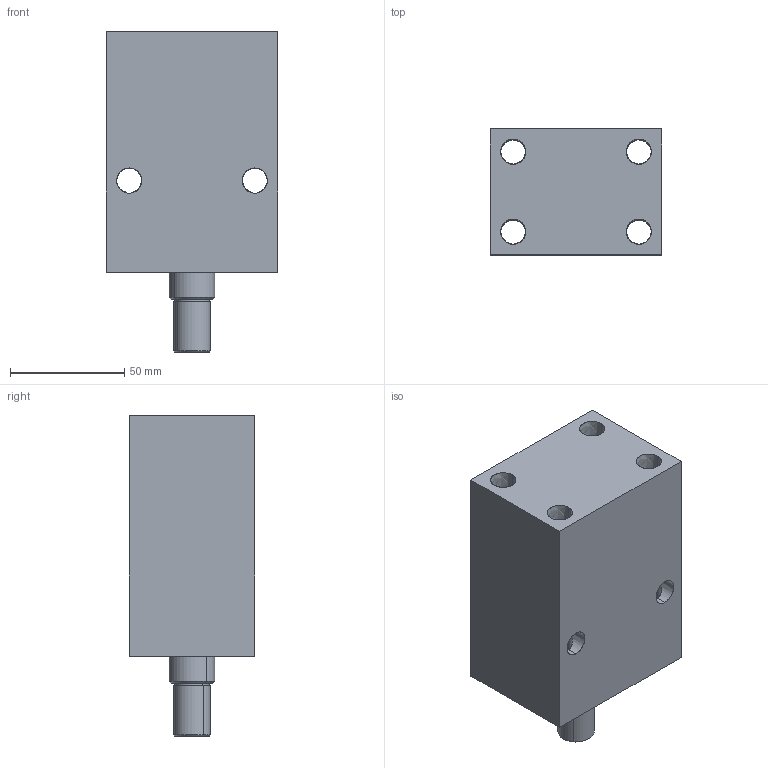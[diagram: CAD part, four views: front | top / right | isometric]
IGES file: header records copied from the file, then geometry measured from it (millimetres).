
Start section: SolidWorks IGES file using analytic representation for surfaces
Global section: file name: D:\karuppas\Clasp\3D model\Block cylinder B01C-Male thread - Copy\B01C-250M\Block cylinder_B01C-250M.IGS; native system: SolidWorks 2017; preprocessor: SolidWorks 2017; author: pc; date: 220709.234011; units: millimetre
Bounding box: 75 x 55 x 140 mm (x, y, z)
Surface area: 61758.4 mm2 (no closed solid volume)
Topology: 0 solids, 0 shells, 352 faces, 5418 edges, 5414 vertices
Faces by surface type: bspline 298, revolution 54
